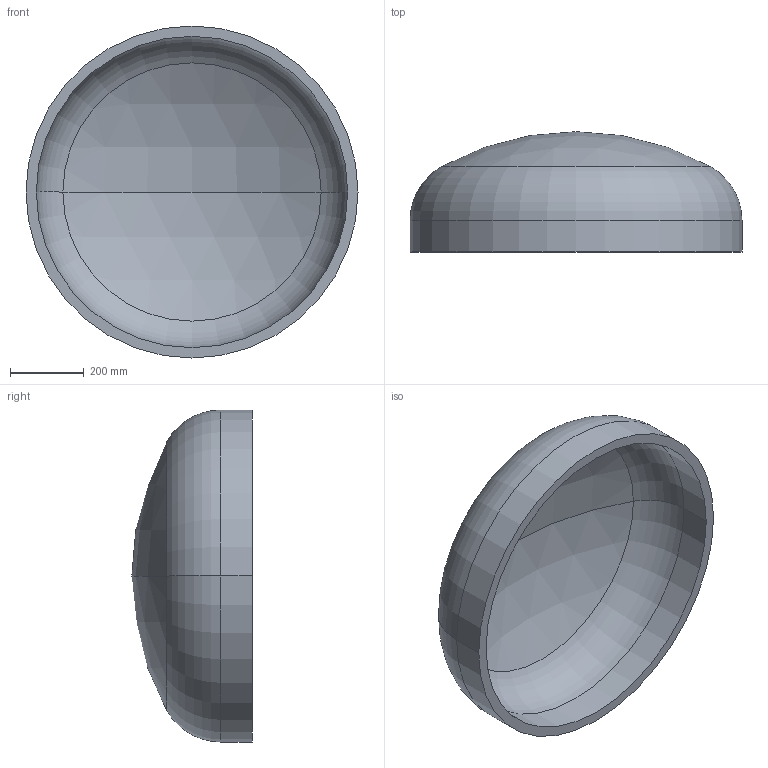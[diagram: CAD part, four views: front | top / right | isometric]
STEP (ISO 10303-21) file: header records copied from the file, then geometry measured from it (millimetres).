
FILE_DESCRIPTION (( 'STEP AP203' ), '1' );
FILE_NAME ('DIN 28013 Korbbogenform_-_Boden DIN 28013 - 900 x 85 - I - s=28.step', '2016-07-01T08:28:49', ( '' ), ( '' ), 'SwSTEP 2.0', 'SolidWorks 2013', '' );
FILE_SCHEMA (( 'CONFIG_CONTROL_DESIGN' ));
Length unit declared in the file: millimetre
Products named in the file (1): DIN 28013 Korbbogenform_-_Boden DIN 28013 - 900 x 85 - I - s=28
Bounding box: 900 x 326.17 x 900 mm (x, y, z)
Volume: 30256838.2 mm3; surface area: 2239549.3 mm2
Topology: 1 solids, 1 shells, 13 faces, 24 edges, 14 vertices
Faces by surface type: torus 4, cylinder 4, sphere 4, plane 1
Entity records: 407 total; most frequent: DIRECTION 72, CARTESIAN_POINT 52, ORIENTED_EDGE 48, AXIS2_PLACEMENT_3D 34, EDGE_CURVE 24, CIRCLE 20, VERTEX_POINT 14, EDGE_LOOP 14
